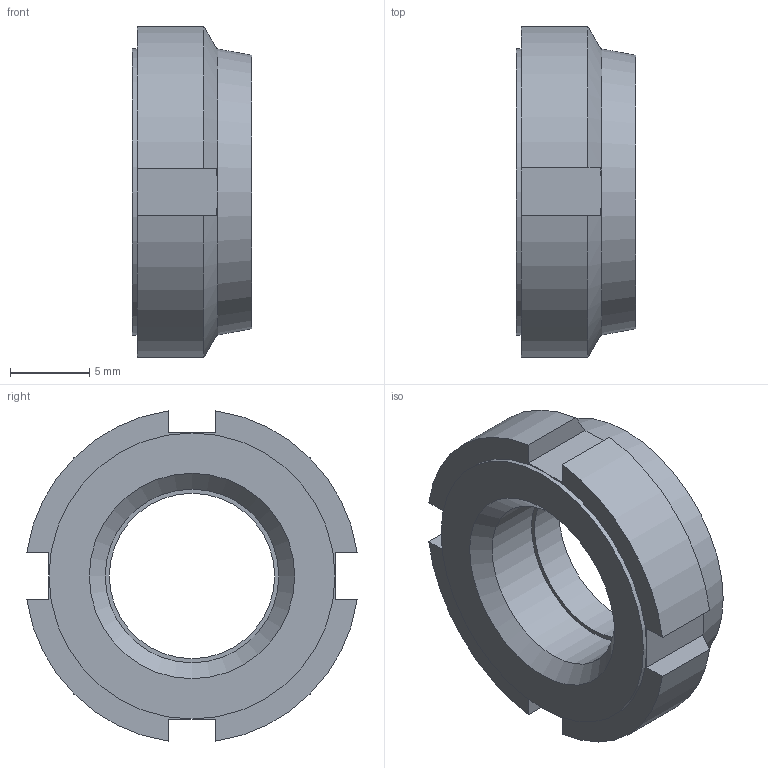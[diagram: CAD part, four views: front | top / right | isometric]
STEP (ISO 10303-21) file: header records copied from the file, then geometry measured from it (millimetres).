
FILE_DESCRIPTION( ( 'STEP AP203' ), '1' );
FILE_NAME( 'C:/Temp/Ganter_Step_05_03_2020/data/3_2/gn1804_1/Slotted locknut self-locking GN 1804.1-M12x1.stp', '2020-03-13T05:25:13', ( 'License CC BY-ND 4.0' ), ( 'CADENAS' ), ' ', 'PARTsolutions', ' ' );
FILE_SCHEMA( ( 'CONFIG_CONTROL_DESIGN' ) );
Length unit declared in the file: millimetre
Products named in the file (1): _Slotted locknut self-locking GN 1804.1-M12x1
Bounding box: 7.5 x 20.78 x 20.78 mm (x, y, z)
Volume: 1496 mm3; surface area: 1192.4 mm2
Topology: 1 solids, 1 shells, 34 faces, 79 edges, 49 vertices
Faces by surface type: plane 20, cylinder 8, cone 6
Full cylindrical faces by diameter (mm): 10.4 x1, 10.917 x1, 13 x1, 18 x1
Entity records: 1006 total; most frequent: CARTESIAN_POINT 217, DIRECTION 152, ORIENTED_EDGE 146, EDGE_CURVE 73, AXIS2_PLACEMENT_3D 60, VERTEX_POINT 49, EDGE_LOOP 44, FACE_OUTER_BOUND 38
